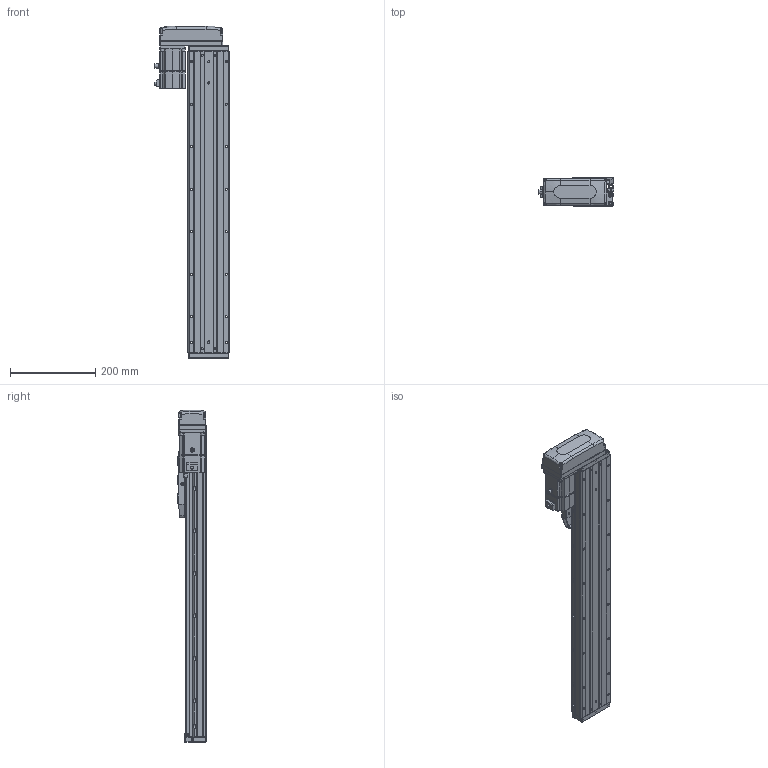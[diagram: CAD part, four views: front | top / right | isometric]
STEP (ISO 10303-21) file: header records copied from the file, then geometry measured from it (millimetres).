
FILE_DESCRIPTION (( 'STEP AP203' ), '1' );
FILE_NAME ('CTHA100-500-BL-M20-C4L.step', '2022-07-06T09:09:03', ( '微软用户' ), ( '微软中国' ), 'SwSTEP 2.0', 'SolidWorks 2020', '' );
FILE_SCHEMA (( 'CONFIG_CONTROL_DESIGN' ));
Length unit declared in the file: millimetre
Products named in the file (19): KTHA100-005; GBT70.1 M5℅16; CTHA86-015-1_CTHA86-015-2; GB¨uT 70.2-M3¡Á5_M3¡Á6; CTHA60-016; CTHA86-033; EE_SX911P_R; _X2_4E0983F1_X0_200W_1; CTHA100-500-BL-M20-C4L; CTHA60-017; CTHA100-002; CTHA60-021; CTHA100-031; KTHA100-001_710; GBT77-2000 M3×3; CTHA86-030; KTHA100-004; GBT 70.1-M3℅6; GBT 70.3-M3℅6
Assembly tree (64 placements, depth 2):
  CTHA100-500-BL-M20-C4L
    KTHA100-001_710
    KTHA100-004
    KTHA100-005
    GB¨uT 70.2-M3¡Á5_M3¡Á6  x10
    EE_SX911P_R  x3
    CTHA60-017  x3
    CTHA60-021  x2
    GBT77-2000 M3×3  x6
    GBT 70.1-M3℅6  x10
    GBT70.1 M5℅16  x14
    CTHA60-016  x2
    _X2_4E0983F1_X0_200W_1
    CTHA100-002
    CTHA100-031
    CTHA86-030  x2
    GBT 70.3-M3℅6  x4
    CTHA86-015-1_CTHA86-015-2
    CTHA86-033
Bounding box: 178.52 x 68 x 781 mm (x, y, z)
Volume: 3414236.8 mm3; surface area: 585235.1 mm2
Topology: 66 solids, 66 shells, 2669 faces, 6415 edges, 3976 vertices
Faces by surface type: plane 1392, cylinder 701, cone 353, torus 124, bspline 75, sphere 24
Entity records: 45992 total; most frequent: CARTESIAN_POINT 9035, DIRECTION 7094, ORIENTED_EDGE 6946, EDGE_CURVE 3473, AXIS2_PLACEMENT_3D 2407, VECTOR 2280, LINE 2280, VERTEX_POINT 2196
